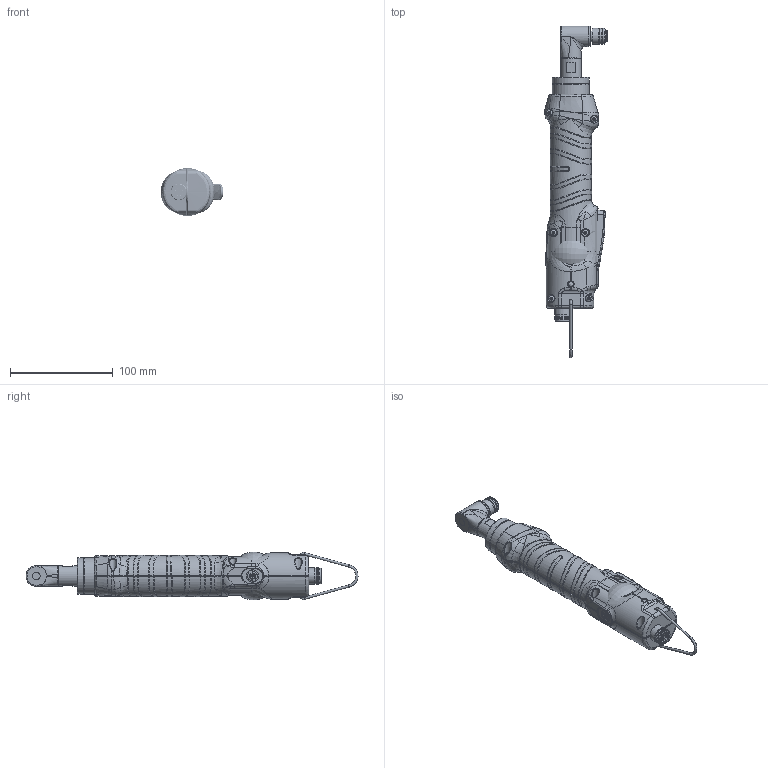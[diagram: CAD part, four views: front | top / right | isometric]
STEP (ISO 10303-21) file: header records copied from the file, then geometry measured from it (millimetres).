
FILE_DESCRIPTION (( 'STEP AP214' ), '1' );
FILE_NAME ('KDS-MT1.5ANG-ESD 175015-A-ESD.STEP', '2025-09-02T12:59:31', ( '' ), ( '' ), 'SwSTEP 2.0', 'SolidWorks 2024', '' );
FILE_SCHEMA (( 'AUTOMOTIVE_DESIGN' ));
Length unit declared in the file: millimetre
Products named in the file (1): KDS-MT1.5ANG-ESD 175015-A-ESD
Bounding box: 60.89 x 323.62 x 46.74 mm (x, y, z)
Surface area: 143358.9 mm2 (no closed solid volume)
Topology: 0 solids, 70 shells, 3865 faces, 9961 edges, 6279 vertices
Faces by surface type: bspline 1377, plane 1324, cylinder 809, cone 260, torus 87, sphere 8
Full cylindrical faces by diameter (mm): 0.85 x8, 1 x16, 1.6 x1, 1.75 x2, 1.778 x2, 1.89 x2, 2 x4, 2.1 x13, 2.2 x5, 2.5 x9, 2.6 x8, 2.8 x1, 3 x12, 3.2 x6, 3.5 x2, 3.8 x2, 3.861 x2, 4 x5, 4.2 x1, 5.004 x2, 5.5 x4, 5.6 x6, 5.7 x4, 6 x3, 7.5 x1, 7.8 x1, 8 x4, 9 x1, 9.75 x2, 9.8 x1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
Entity records: 260279 total; most frequent: CARTESIAN_POINT 139388, ORIENTED_EDGE 18450, DIRECTION 12130, EDGE_CURVE 9369, VERTEX_POINT 6140, EDGE_LOOP 4539, AXIS2_PLACEMENT_3D 4348, FACE_OUTER_BOUND 4154
